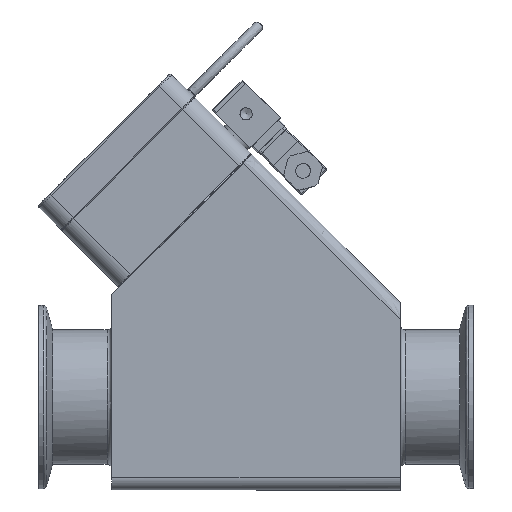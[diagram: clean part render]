
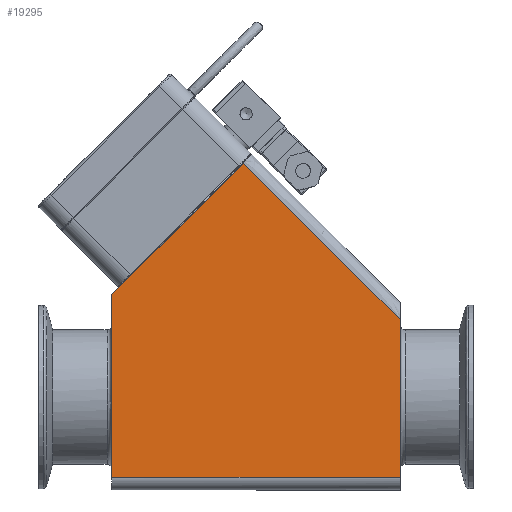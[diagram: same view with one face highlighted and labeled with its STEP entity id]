
A CAD part, top view. The second image highlights one B-rep face of the part: STEP entity #19295.
In plain terms, the highlighted free-form (B-spline) face has degree [1, 1] with [2, 2] control points.
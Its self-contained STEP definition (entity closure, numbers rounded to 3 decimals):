
#19160=CARTESIAN_POINT('V16',(118.,69.48,
   77.));
#19161=VERTEX_POINT('V16',#19160);
#19181=CARTESIAN_POINT('V17',(118.,5.,
   77.));
#19182=VERTEX_POINT('V17',#19181);
#19196=CARTESIAN_POINT('E24',(118.,69.48,
   77.0));
#19197=CARTESIAN_POINT('E24',(118.,5.,
   77.0));
#19198=B_SPLINE_CURVE_WITH_KNOTS('E24',1,(#19196,#19197),
   .POLYLINE_FORM.,.F.,.U.,(2,2),(0.092,
   0.935),.UNSPECIFIED.);
#19199=EDGE_CURVE('E24',#19161,#19182,#19198,.T.);
#19223=CARTESIAN_POINT('V35',(0.,5.0,77.)
   );
#19224=VERTEX_POINT('V35',#19223);
#19238=CARTESIAN_POINT('E50',(0.,5.0,77.)
   );
#19239=CARTESIAN_POINT('E50',(118.,5.,
   77.));
#19240=B_SPLINE_CURVE_WITH_KNOTS('E50',1,(#19238,#19239),
   .POLYLINE_FORM.,.F.,.U.,(2,2),(2.0,17.024),
   .UNSPECIFIED.);
#19241=EDGE_CURVE('E50',#19224,#19182,#19240,.T.);
#19255=CARTESIAN_POINT('V34',(0.0,80.,77.0));
#19256=VERTEX_POINT('V34',#19255);
#19262=CARTESIAN_POINT('E49',(0.0,5.,77.0));
#19263=CARTESIAN_POINT('E49',(0.0,80.,77.0));
#19264=B_SPLINE_CURVE_WITH_KNOTS('E49',1,(#19262,#19263),
   .POLYLINE_FORM.,.F.,.U.,(2,2),(0.063,1.0),
   .UNSPECIFIED.);
#19265=EDGE_CURVE('E49',#19224,#19256,#19264,.T.);
#19273=CARTESIAN_POINT('F18',(-5.9,-6.864,
   77.));
#19274=CARTESIAN_POINT('F18',(123.9,-6.864,
   77.));
#19275=CARTESIAN_POINT('F18',(-5.9,144.139,
   77.));
#19276=CARTESIAN_POINT('F18',(123.9,
   144.139,77.));
#19277=QUASI_UNIFORM_SURFACE('F18',1,1,((#19273,#19275),(#19274,
   #19276)),.PLANE_SURF.,.F.,.F.,.U.);
#19278=CARTESIAN_POINT('V33',(53.74,133.74,
   77.));
#19279=VERTEX_POINT('V33',#19278);
#19280=CARTESIAN_POINT('E47',(118.,69.48,
   77.));
#19281=CARTESIAN_POINT('E47',(53.74,133.74,
   77.));
#19282=B_SPLINE_CURVE_WITH_KNOTS('E47',1,(#19280,#19281),
   .POLYLINE_FORM.,.F.,.U.,(2,2),(2.0,13.571),
   .UNSPECIFIED.);
#19283=EDGE_CURVE('E47',#19161,#19279,#19282,.T.);
#19284=ORIENTED_EDGE('E47',*,*,#19283,.F.);
#19285=ORIENTED_EDGE('F11',*,*,#19199,.T.);
#19286=ORIENTED_EDGE('F40',*,*,#19241,.F.);
#19287=ORIENTED_EDGE('F24',*,*,#19265,.T.);
#19288=CARTESIAN_POINT('E48',(0.,80.0,77.0));
#19289=CARTESIAN_POINT('E48',(53.74,133.74,
   77.));
#19290=B_SPLINE_CURVE_WITH_KNOTS('E48',1,(#19288,#19289),
   .POLYLINE_FORM.,.F.,.U.,(2,2),(0.0,0.938),
   .UNSPECIFIED.);
#19291=EDGE_CURVE('E48',#19256,#19279,#19290,.T.);
#19292=ORIENTED_EDGE('E48',*,*,#19291,.T.);
#19293=EDGE_LOOP('F18',(#19284,#19285,#19286,#19287,#19292));
#19294=FACE_OUTER_BOUND('F18',#19293,.F.);
#19295=ADVANCED_FACE('F18',(#19294),#19277,.T.);
